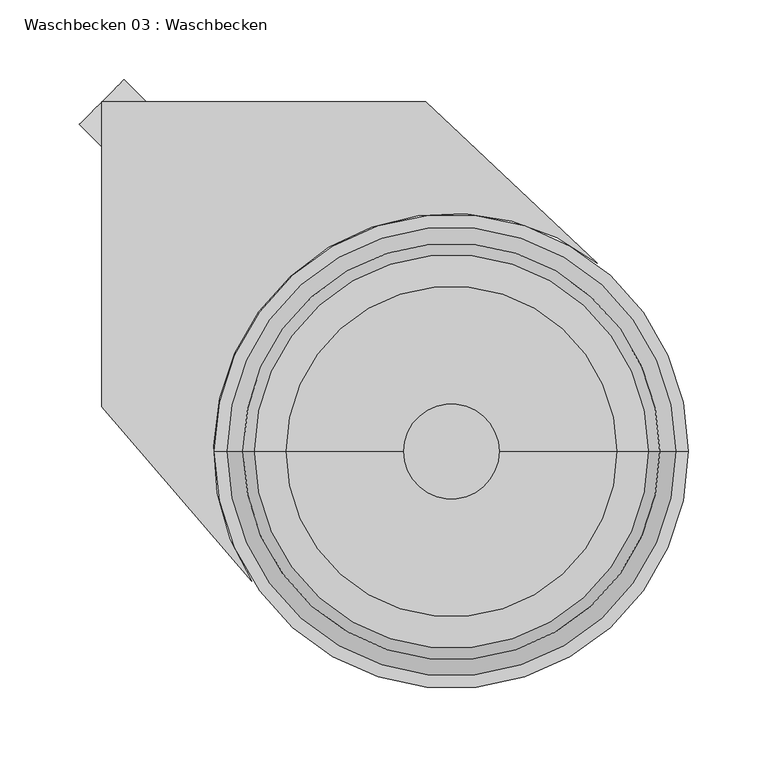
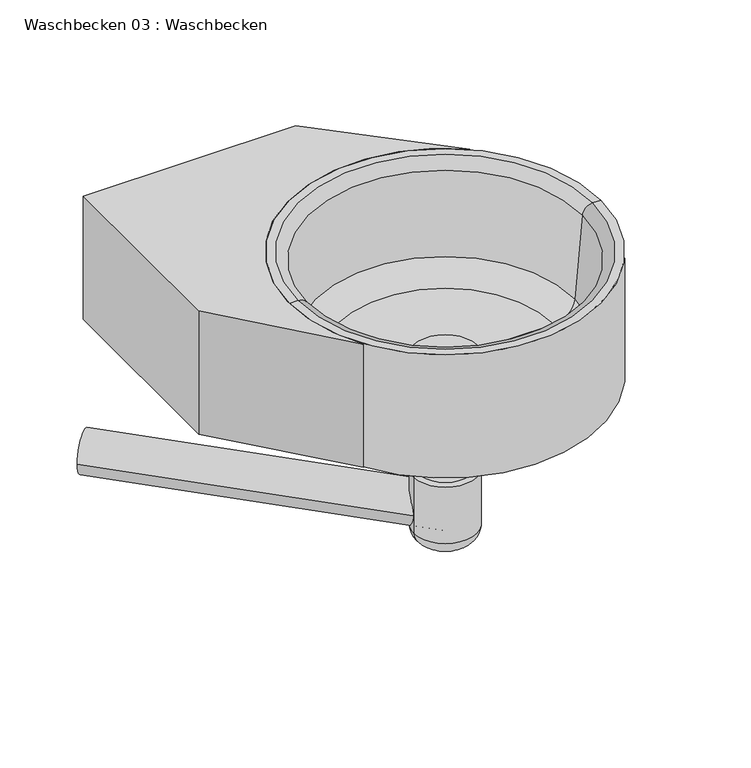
"""IFC4 building model written with IfcOpenShell, lengths in millimetres: flow terminal geometry, Waschbecken 03 : Waschbecken."""

from ifc_helpers import new_model, si_unit, point, frame, frame_2d, origin, origin_with_axes, origin_2d, place, context, project, spatial, polyline, circle_curve, ellipse_curve, trimmed, segment, composite_curve, outline, extrude, source, transform, mapped, element, save
from ifc_brep_helpers import plane_surface, cylinder_surface, revolved_surface, advanced_brep


def waschbecken_03_waschbecken_093a886d(model_context):
    return source(origin(), model_context, "Body", "SolidModel", [
        extrude(outline(composite_curve([segment(trimmed(circle_curve(frame_2d((220.0, -220.0)), 30.0), [point((190.0, -220.0))], [point((250.0, -220.0))], False, "CARTESIAN"), True, "CONTINUOUS"), segment(trimmed(circle_curve(frame_2d((220.0, -220.0)), 30.0), [point((250.0, -220.0))], [point((190.0, -220.0))], False, "CARTESIAN"), True, "CONTINUOUS")], self_intersect=False)), frame((0.0, 0.0, 15.0), z_axis=(0.0, 0.0, 1.0), x_axis=(1.0, 0.0, 0.0)), (0.0, 0.0, 1.0), 5.0),
        extrude(outline(composite_curve([segment(trimmed(circle_curve(origin_2d(), 20.0), [point((0.0, 20.0))], [point((0.0, -20.0))], False, "CARTESIAN"), True, "CONTINUOUS"), segment(trimmed(circle_curve(origin_2d(), 20.0), [point((0.0, -20.0))], [point((0.0, 20.0))], False, "CARTESIAN"), True, "CONTINUOUS")], self_intersect=False)), frame((220.0, -220.0, -133.3432751), z_axis=(-0.7071067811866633, 0.707106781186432, 0.0), x_axis=(0.0, 0.0, 1.0)), (0.0, 0.0, 1.0), 311.1269837),
        advanced_brep(
        [(236.1522369, -220.0, -90.0), (203.8477631, -220.0, -90.0), (203.8477631, -220.0, 0.0), (236.1522369, -220.0, 0.0), (247.0, -220.0, -90.0), (193.0, -220.0, -90.0), (250.0, -220.0, -93.0), (190.0, -220.0, -93.0), (250.0, -220.0, -150.0), (190.0, -220.0, -150.0), (235.0, -220.0, -165.0), (205.0, -220.0, -165.0), (220.0, -220.0, -165.0), (233.7379063, -220.0, 3.7247134), (206.2620937, -220.0, 3.7247134), (220.0, -220.0, 3.7247134), (233.7379063, -220.0, 15.0), (206.2620937, -220.0, 15.0), (242.0, -220.0, 15.0), (198.0, -220.0, 15.0), (242.0, -220.0, 13.464751), (198.0, -220.0, 13.464751), (237.0, -220.0, 13.464751), (203.0, -220.0, 13.464751), (237.0, -220.0, 0.0), (203.0, -220.0, 0.0)],
        [
            (0, 1, circle_curve(frame((220.0, -220.0, -90.0), z_axis=(0.0, 0.0, 1.0), x_axis=(-1.0, 0.0, 0.0)), 16.1522369)),
            (1, 2),
            (2, 3, circle_curve(frame((220.0, -220.0, 0.0), z_axis=(0.0, 0.0, -1.0), x_axis=(-1.0, 0.0, 0.0)), 16.1522369)),
            (3, 0),
            (1, 0, circle_curve(frame((220.0, -220.0, -90.0), z_axis=(0.0, 0.0, 1.0), x_axis=(-1.0, 0.0, 0.0)), 16.1522369)),
            (3, 2, circle_curve(frame((220.0, -220.0, 0.0), z_axis=(0.0, 0.0, -1.0), x_axis=(-1.0, 0.0, 0.0)), 16.1522369)),
            (4, 5, circle_curve(frame((220.0, -220.0, -90.0), z_axis=(0.0, 0.0, 1.0), x_axis=(-1.0, 0.0, 0.0)), 27.0)),
            (5, 1),
            (0, 4),
            (5, 4, circle_curve(frame((220.0, -220.0, -90.0), z_axis=(0.0, 0.0, 1.0), x_axis=(-1.0, 0.0, 0.0)), 27.0)),
            (6, 7, circle_curve(frame((220.0, -220.0, -93.0), z_axis=(0.0, 0.0, 1.0), x_axis=(-1.0, 0.0, 0.0)), 30.0)),
            (7, 5, circle_curve(frame((193.0, -220.0, -93.0), z_axis=(0.0, 1.0, 0.0), x_axis=(1.0, 0.0, 0.0)), 3.0)),
            (4, 6, circle_curve(frame((247.0, -220.0, -93.0), z_axis=(0.0, 1.0, 0.0), x_axis=(-1.0, 0.0, 0.0)), 3.0)),
            (7, 6, circle_curve(frame((220.0, -220.0, -93.0), z_axis=(0.0, 0.0, 1.0), x_axis=(-1.0, 0.0, 0.0)), 30.0)),
            (8, 9, circle_curve(frame((220.0, -220.0, -150.0), z_axis=(0.0, 0.0, 1.0), x_axis=(-1.0, 0.0, 0.0)), 30.0)),
            (9, 7),
            (6, 8),
            (9, 8, circle_curve(frame((220.0, -220.0, -150.0), z_axis=(0.0, 0.0, 1.0), x_axis=(-1.0, 0.0, 0.0)), 30.0)),
            (10, 11, circle_curve(frame((220.0, -220.0, -165.0), z_axis=(0.0, 0.0, 1.0), x_axis=(-1.0, 0.0, 0.0)), 15.0)),
            (11, 9, circle_curve(frame((205.0, -220.0, -150.0), z_axis=(0.0, 1.0, 0.0), x_axis=(1.0, 0.0, 0.0)), 15.0)),
            (8, 10, circle_curve(frame((235.0, -220.0, -150.0), z_axis=(0.0, 1.0, 0.0), x_axis=(-1.0, 0.0, 0.0)), 15.0)),
            (11, 10, circle_curve(frame((220.0, -220.0, -165.0), z_axis=(0.0, 0.0, 1.0), x_axis=(-1.0, 0.0, 0.0)), 15.0)),
            (12, 11),
            (10, 12),
            (13, 14, circle_curve(frame((220.0, -220.0, 3.7247134), z_axis=(0.0, 0.0, 1.0), x_axis=(-1.0, 0.0, 0.0)), 13.7379063)),
            (14, 15),
            (15, 13),
            (14, 13, circle_curve(frame((220.0, -220.0, 3.7247134), z_axis=(0.0, 0.0, 1.0), x_axis=(-1.0, 0.0, 0.0)), 13.7379063)),
            (16, 17, circle_curve(frame((220.0, -220.0, 15.0), z_axis=(0.0, 0.0, 1.0), x_axis=(-1.0, 0.0, 0.0)), 13.7379063)),
            (17, 14),
            (13, 16),
            (17, 16, circle_curve(frame((220.0, -220.0, 15.0), z_axis=(0.0, 0.0, 1.0), x_axis=(-1.0, 0.0, 0.0)), 13.7379063)),
            (18, 19, circle_curve(frame((220.0, -220.0, 15.0), z_axis=(0.0, 0.0, 1.0), x_axis=(-1.0, 0.0, 0.0)), 22.0)),
            (19, 17),
            (16, 18),
            (19, 18, circle_curve(frame((220.0, -220.0, 15.0), z_axis=(0.0, 0.0, 1.0), x_axis=(-1.0, 0.0, 0.0)), 22.0)),
            (20, 21, circle_curve(frame((220.0, -220.0, 13.464751), z_axis=(0.0, 0.0, 1.0), x_axis=(-1.0, 0.0, 0.0)), 22.0)),
            (21, 19),
            (18, 20),
            (21, 20, circle_curve(frame((220.0, -220.0, 13.464751), z_axis=(0.0, 0.0, 1.0), x_axis=(-1.0, 0.0, 0.0)), 22.0)),
            (22, 23, circle_curve(frame((220.0, -220.0, 13.464751), z_axis=(0.0, 0.0, 1.0), x_axis=(-1.0, 0.0, 0.0)), 17.0)),
            (23, 21),
            (20, 22),
            (23, 22, circle_curve(frame((220.0, -220.0, 13.464751), z_axis=(0.0, 0.0, 1.0), x_axis=(-1.0, 0.0, 0.0)), 17.0)),
            (24, 25, circle_curve(frame((220.0, -220.0, 0.0), z_axis=(0.0, 0.0, 1.0), x_axis=(-1.0, 0.0, 0.0)), 17.0)),
            (25, 23),
            (22, 24),
            (25, 24, circle_curve(frame((220.0, -220.0, 0.0), z_axis=(0.0, 0.0, 1.0), x_axis=(-1.0, 0.0, 0.0)), 17.0)),
            (2, 25),
            (24, 3),
        ],
        [
            cylinder_surface(frame((220.0, -220.0, 2438.4), z_axis=(0.0, 0.0, -1.0), x_axis=(-1.0, 0.0, 0.0)), 16.1522369),
            plane_surface(frame((220.0, -220.0, -90.0), z_axis=(0.0, 0.0, 1.0), x_axis=(-1.0, 0.0, 0.0))),
            revolved_surface(trimmed(ellipse_curve(frame((193.0, -220.0, -93.0), z_axis=(0.0, -1.0, 0.0), x_axis=(1.0, 0.0, 0.0)), 3.0, 3.0), [point((193.0, -220.0, -90.0))], [point((190.0, -220.0, -93.0))], True, "CARTESIAN"), (220.0, -220.0, 2438.4), (0.0, 0.0, -1.0)),
            cylinder_surface(frame((220.0, -220.0, 2438.4), z_axis=(0.0, 0.0, -1.0), x_axis=(-1.0, 0.0, 0.0)), 30.0),
            revolved_surface(trimmed(ellipse_curve(frame((205.0, -220.0, -150.0), z_axis=(0.0, -1.0, 0.0), x_axis=(1.0, 0.0, 0.0)), 15.0, 15.0), [point((190.0, -220.0, -150.0))], [point((205.0, -220.0, -165.0))], True, "CARTESIAN"), (220.0, -220.0, 2438.4), (0.0, 0.0, -1.0)),
            plane_surface(frame((220.0, -220.0, -165.0), z_axis=(0.0, 0.0, -1.0), x_axis=(-1.0, 0.0, 0.0))),
            plane_surface(frame((220.0, -220.0, 3.7247134), z_axis=(0.0, 0.0, 1.0), x_axis=(-1.0, 0.0, 0.0))),
            revolved_surface(polyline([(206.2620937, -220.0, 3.724713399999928), (206.2620937, -220.0, 15.0)]), (220.0, -220.0, 2438.4), (0.0, 0.0, -1.0)),
            plane_surface(frame((220.0, -220.0, 15.0), z_axis=(0.0, 0.0, 1.0), x_axis=(-1.0, 0.0, 0.0))),
            cylinder_surface(frame((220.0, -220.0, 2438.4), z_axis=(0.0, 0.0, -1.0), x_axis=(-1.0, 0.0, 0.0)), 22.0),
            plane_surface(frame((220.0, -220.0, 13.464751), z_axis=(0.0, 0.0, -1.0), x_axis=(-1.0, 0.0, 0.0))),
            cylinder_surface(frame((220.0, -220.0, 2438.4), z_axis=(0.0, 0.0, -1.0), x_axis=(-1.0, 0.0, 0.0)), 17.0),
            plane_surface(frame((220.0, -220.0, 0.0), z_axis=(0.0, 0.0, -1.0), x_axis=(-1.0, 0.0, 0.0))),
        ],
        [
            (0, [[1, 2, 3, 4]]),
            (0, [[5, -4, 6, -2]]),
            (1, [[7, 8, -1, 9]]),
            (1, [[10, -9, -5, -8]]),
            (2, [[11, 12, -7, 13]]),
            (2, [[14, -13, -10, -12]]),
            (3, [[15, 16, -11, 17]]),
            (3, [[18, -17, -14, -16]]),
            (4, [[19, 20, -15, 21]]),
            (4, [[22, -21, -18, -20]]),
            (5, [[23, -19, 24]]),
            (5, [[-24, -22, -23]]),
            (6, [[25, 26, 27]]),
            (6, [[28, -27, -26]]),
            (7, [[29, 30, -25, 31]]),
            (7, [[32, -31, -28, -30]]),
            (8, [[33, 34, -29, 35]]),
            (8, [[36, -35, -32, -34]]),
            (9, [[37, 38, -33, 39]]),
            (9, [[40, -39, -36, -38]]),
            (10, [[41, 42, -37, 43]]),
            (10, [[44, -43, -40, -42]]),
            (11, [[45, 46, -41, 47]]),
            (11, [[48, -47, -44, -46]]),
            (12, [[-3, 49, -45, 50]]),
            (12, [[-6, -50, -48, -49]]),
        ],
    ),
        advanced_brep(
        [(236.2, -220.0, 0.0), (203.8, -220.0, 0.0), (70.8, -220.0, 0.0), (369.2, -220.0, 0.0), (241.2, -220.0, 13.464751), (198.8, -220.0, 13.464751), (203.8, -220.0, 13.464751), (236.2, -220.0, 13.464751), (241.2, -220.0, 15.0), (198.8, -220.0, 15.0), (324.0624069, -220.0, 15.0), (115.9375931, -220.0, 15.0), (343.9863009, -220.0, 33.2568851), (96.0136991, -220.0, 33.2568851), (351.2141482, -220.0, 115.8715574), (88.7858518, -220.0, 115.8715574), (361.1760952, -220.0, 125.0), (78.8239048, -220.0, 125.0), (369.2, -220.0, 125.0), (70.8, -220.0, 125.0)],
        [
            (0, 1, circle_curve(frame((220.0, -220.0, 0.0), z_axis=(0.0, 0.0, 1.0), x_axis=(-1.0, 0.0, 0.0)), 16.2)),
            (1, 2),
            (2, 3, circle_curve(frame((220.0, -220.0, 0.0), z_axis=(0.0, 0.0, -1.0), x_axis=(-1.0, 0.0, 0.0)), 149.2)),
            (3, 0),
            (1, 0, circle_curve(frame((220.0, -220.0, 0.0), z_axis=(0.0, 0.0, 1.0), x_axis=(-1.0, 0.0, 0.0)), 16.2)),
            (3, 2, circle_curve(frame((220.0, -220.0, 0.0), z_axis=(0.0, 0.0, -1.0), x_axis=(-1.0, 0.0, 0.0)), 149.2)),
            (4, 5, circle_curve(frame((220.0, -220.0, 13.464751), z_axis=(0.0, 0.0, 1.0), x_axis=(-1.0, 0.0, 0.0)), 21.2)),
            (5, 6),
            (6, 7, circle_curve(frame((220.0, -220.0, 13.464751), z_axis=(0.0, 0.0, -1.0), x_axis=(-1.0, 0.0, 0.0)), 16.2)),
            (7, 4),
            (5, 4, circle_curve(frame((220.0, -220.0, 13.464751), z_axis=(0.0, 0.0, 1.0), x_axis=(-1.0, 0.0, 0.0)), 21.2)),
            (7, 6, circle_curve(frame((220.0, -220.0, 13.464751), z_axis=(0.0, 0.0, -1.0), x_axis=(-1.0, 0.0, 0.0)), 16.2)),
            (8, 9, circle_curve(frame((220.0, -220.0, 15.0), z_axis=(0.0, 0.0, 1.0), x_axis=(-1.0, 0.0, 0.0)), 21.2)),
            (9, 5),
            (4, 8),
            (9, 8, circle_curve(frame((220.0, -220.0, 15.0), z_axis=(0.0, 0.0, 1.0), x_axis=(-1.0, 0.0, 0.0)), 21.2)),
            (10, 11, circle_curve(frame((220.0, -220.0, 15.0), z_axis=(0.0, 0.0, 1.0), x_axis=(-1.0, 0.0, 0.0)), 104.0624069)),
            (11, 9),
            (8, 10),
            (11, 10, circle_curve(frame((220.0, -220.0, 15.0), z_axis=(0.0, 0.0, 1.0), x_axis=(-1.0, 0.0, 0.0)), 104.0624069)),
            (12, 13, circle_curve(frame((220.0, -220.0, 33.2568851), z_axis=(0.0, 0.0, 1.0), x_axis=(-1.0, 0.0, 0.0)), 123.9863009)),
            (13, 11, circle_curve(frame((115.9375931, -220.0, 35.0), z_axis=(0.0, -1.0, 0.0), x_axis=(1.0, 0.0, 0.0)), 20.0)),
            (10, 12, circle_curve(frame((324.0624069, -220.0, 35.0), z_axis=(0.0, -1.0, 0.0), x_axis=(-1.0, 0.0, 0.0)), 20.0)),
            (13, 12, circle_curve(frame((220.0, -220.0, 33.2568851), z_axis=(0.0, 0.0, 1.0), x_axis=(-1.0, 0.0, 0.0)), 123.9863009)),
            (14, 15, circle_curve(frame((220.0, -220.0, 115.8715574), z_axis=(0.0, 0.0, 1.0), x_axis=(-1.0, 0.0, 0.0)), 131.2141482)),
            (15, 13),
            (12, 14),
            (15, 14, circle_curve(frame((220.0, -220.0, 115.8715574), z_axis=(0.0, 0.0, 1.0), x_axis=(-1.0, 0.0, 0.0)), 131.2141482)),
            (16, 17, circle_curve(frame((220.0, -220.0, 125.0), z_axis=(0.0, 0.0, 1.0), x_axis=(-1.0, 0.0, 0.0)), 141.1760952)),
            (17, 15, circle_curve(frame((78.8239048, -220.0, 115.0), z_axis=(0.0, 1.0, 0.0), x_axis=(1.0, 0.0, 0.0)), 10.0)),
            (14, 16, circle_curve(frame((361.1760952, -220.0, 115.0), z_axis=(0.0, 1.0, 0.0), x_axis=(-1.0, 0.0, 0.0)), 10.0)),
            (17, 16, circle_curve(frame((220.0, -220.0, 125.0), z_axis=(0.0, 0.0, 1.0), x_axis=(-1.0, 0.0, 0.0)), 141.1760952)),
            (18, 19, circle_curve(frame((220.0, -220.0, 125.0), z_axis=(0.0, 0.0, 1.0), x_axis=(-1.0, 0.0, 0.0)), 149.2)),
            (19, 17),
            (16, 18),
            (19, 18, circle_curve(frame((220.0, -220.0, 125.0), z_axis=(0.0, 0.0, 1.0), x_axis=(-1.0, 0.0, 0.0)), 149.2)),
            (2, 19),
            (18, 3),
            (6, 1),
            (0, 7),
        ],
        [
            plane_surface(frame((220.0, -220.0, 0.0), z_axis=(0.0, 0.0, -1.0), x_axis=(-1.0, 0.0, 0.0))),
            plane_surface(frame((220.0, -220.0, 13.464751), z_axis=(0.0, 0.0, 1.0), x_axis=(-1.0, 0.0, 0.0))),
            revolved_surface(polyline([(198.8, -220.0, 13.464750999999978), (198.8, -220.0, 15.0)]), (220.0, -220.0, 2438.4), (0.0, 0.0, -1.0)),
            plane_surface(frame((220.0, -220.0, 15.0), z_axis=(0.0, 0.0, 1.0), x_axis=(-1.0, 0.0, 0.0))),
            revolved_surface(trimmed(ellipse_curve(frame((115.9375931, -220.0, 35.0), z_axis=(0.0, 1.0, 0.0), x_axis=(1.0, 0.0, 0.0)), 20.0, 20.0), [point((115.9375931, -220.0, 15.0))], [point((96.0136991, -220.0, 33.2568851))], True, "CARTESIAN"), (220.0, -220.0, 2438.4), (0.0, 0.0, -1.0)),
            revolved_surface(polyline([(96.0136991, -220.0, 33.2568851), (88.7858518, -220.0, 115.8715574)]), (220.0, -220.0, 2438.4), (0.0, 0.0, -1.0)),
            revolved_surface(trimmed(ellipse_curve(frame((78.8239048, -220.0, 115.0), z_axis=(0.0, -1.0, 0.0), x_axis=(1.0, 0.0, 0.0)), 10.0, 10.0), [point((88.7858518, -220.0, 115.8715574))], [point((78.8239048, -220.0, 125.0))], True, "CARTESIAN"), (220.0, -220.0, 2438.4), (0.0, 0.0, -1.0)),
            plane_surface(frame((220.0, -220.0, 125.0), z_axis=(0.0, 0.0, 1.0), x_axis=(-1.0, 0.0, 0.0))),
            cylinder_surface(frame((220.0, -220.0, 2438.4), z_axis=(0.0, 0.0, -1.0), x_axis=(-1.0, 0.0, 0.0)), 149.2),
            revolved_surface(polyline([(203.8, -220.0, 0.0), (203.8, -220.0, 13.464750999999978)]), (220.0, -220.0, 2438.4), (0.0, 0.0, -1.0)),
        ],
        [
            (0, [[1, 2, 3, 4]]),
            (0, [[5, -4, 6, -2]]),
            (1, [[7, 8, 9, 10]]),
            (1, [[11, -10, 12, -8]]),
            (2, [[13, 14, -7, 15]]),
            (2, [[16, -15, -11, -14]]),
            (3, [[17, 18, -13, 19]]),
            (3, [[20, -19, -16, -18]]),
            (4, [[21, 22, -17, 23]]),
            (4, [[24, -23, -20, -22]]),
            (5, [[25, 26, -21, 27]]),
            (5, [[28, -27, -24, -26]]),
            (6, [[29, 30, -25, 31]]),
            (6, [[32, -31, -28, -30]]),
            (7, [[33, 34, -29, 35]]),
            (7, [[36, -35, -32, -34]]),
            (8, [[-3, 37, -33, 38]]),
            (8, [[-6, -38, -36, -37]]),
            (9, [[-9, 39, -1, 40]]),
            (9, [[-12, -40, -5, -39]]),
        ],
    ),
        extrude(outline(composite_curve([segment(polyline([(94.2746892, -301.8116508), (0.0, -191.8931919), (0.0, 0.0), (203.8477631, 0.0), (311.9238816, -101.4673041)]), True, "CONTINUOUS"), segment(trimmed(circle_curve(frame_2d((220.0, -220.0)), 150.0), [point((311.9238816, -101.4673041))], [point((94.2746892, -301.8116508))], True, "CARTESIAN"), True, "CONTINUOUS")], self_intersect=False)), origin_with_axes(), (0.0, 0.0, 1.0), 125.0),
    ])


if __name__ == "__main__":
    model = new_model("IFC4")
    model_context = context("Model", 3, world=origin())
    ifc_project = project(units=[si_unit("LENGTHUNIT", "METRE", prefix="MILLI")], contexts=[model_context])
    site = spatial("IfcSite", under=ifc_project)
    building = spatial("IfcBuilding", under=site)
    placement = place(None, origin())
    waschbecken_03_waschbecken_shape = waschbecken_03_waschbecken_093a886d(model_context)
    element("IfcFlowTerminal", 1, ObjectType="Waschbecken 03 : Waschbecken", at=placement, inside=building, context=model_context, shape_type="MappedRepresentation", body=[
        mapped(waschbecken_03_waschbecken_shape, transform((0.0, 0.0, 0.0), x_axis=(1.0, 0.0, 0.0), y_axis=(0.0, 1.0, 0.0), z_axis=(0.0, 0.0, 1.0))),
    ])
    save(model, "model.ifc")
